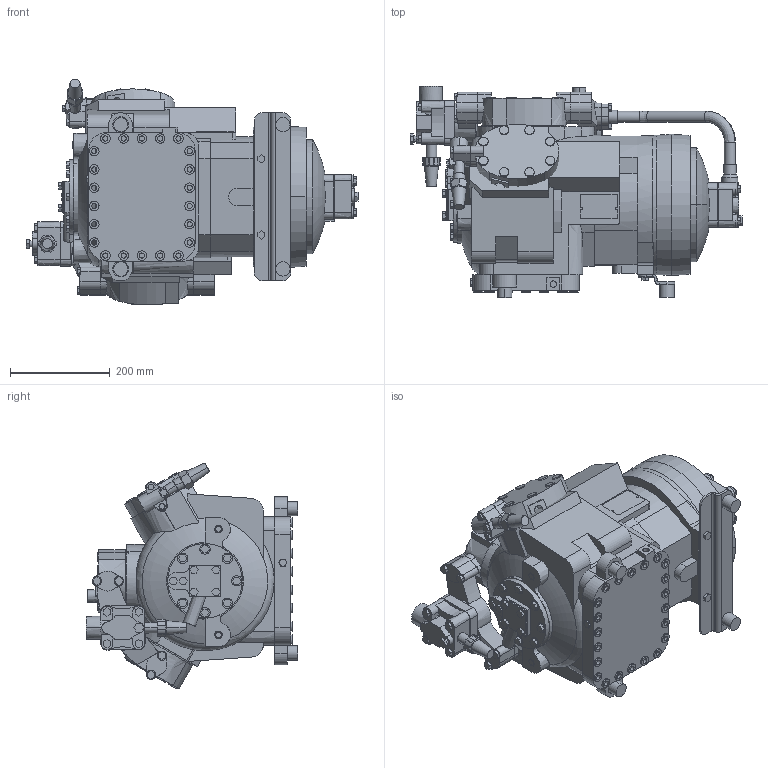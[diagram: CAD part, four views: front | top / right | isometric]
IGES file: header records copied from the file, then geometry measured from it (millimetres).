
Start section:  PTC IGES file: Z:\2002-03\CAD_u\Clients\UTC\Carrier\work_in_progress\sh irnkwrap_without_round\06d6cyl_bharani\06D6CCL9F_SV\final\06d6ccl9f_sv.i gs
Global section: file name: Z:\2002-03\CAD_u\Clients\UTC\Carrier\work_in_progress\shirnkwrap_without_round\06d6cyl_bharani\06D6CCL9F_SV\final\06d6ccl9f_sv.igs; native system: Pro/ENGINEER by Parametric Technology Corporation; preprocessor: 2003161; author: girish.c; organization: Unknown; date: 040123.151918; units: inch
Bounding box: 665.07 x 423.6 x 452.5 mm (x, y, z)
Surface area: 1402768.3 mm2 (no closed solid volume)
Topology: 0 solids, 0 shells, 1093 faces, 5595 edges, 5595 vertices
Faces by surface type: bspline 652, revolution 440, extrusion 1
